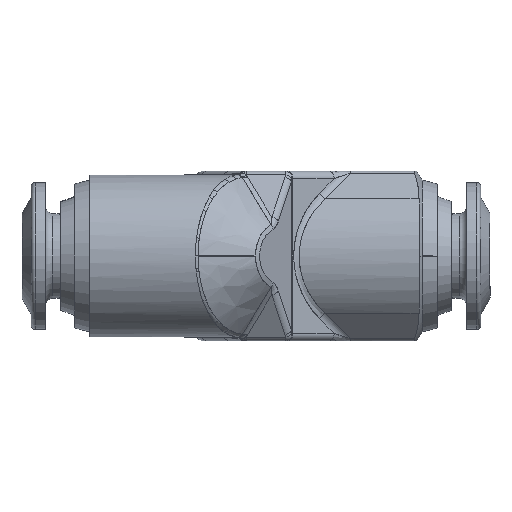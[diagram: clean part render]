
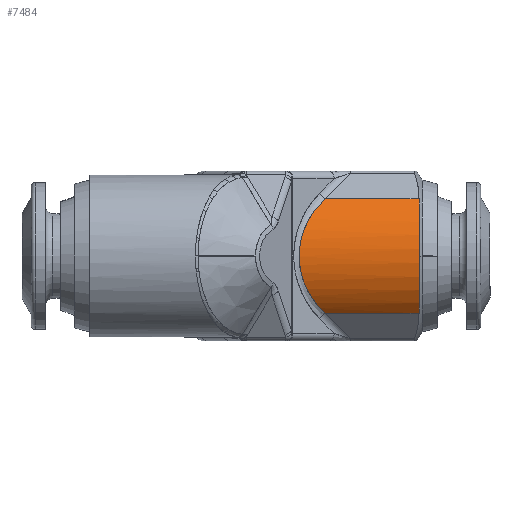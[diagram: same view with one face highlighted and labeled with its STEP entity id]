
A CAD part, left-side view. The second image highlights one B-rep face of the part: STEP entity #7484.
In plain terms, the highlighted cylindrical face has radius 5.25 mm (diameter 10.5 mm), a partial arc.
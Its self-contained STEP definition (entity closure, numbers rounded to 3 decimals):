
#345=CYLINDRICAL_SURFACE('',#8692,5.25);
#716=CIRCLE('',#8693,5.25);
#1168=FACE_OUTER_BOUND('',#1497,.T.);
#1497=EDGE_LOOP('',(#6328,#6329,#6330,#6331));
#1761=B_SPLINE_CURVE_WITH_KNOTS('',3,(#13834,#13835,#13836,#13837,#13838,
#13839,#13840,#13841,#13842,#13843,#13844,#13845,#13846,#13847,#13848,#13849,
#13850,#13851,#13852,#13853,#13854,#13855,#13856,#13857,#13858),
 .UNSPECIFIED.,.F.,.F.,(4,3,3,3,3,3,3,3,4),(0.,0.125,
0.25,0.375,0.5,0.625,
0.75,0.875,1.),.UNSPECIFIED.);
#2140=LINE('',#13829,#2588);
#2141=LINE('',#13833,#2589);
#2588=VECTOR('',#10313,6.08);
#2589=VECTOR('',#10316,6.08);
#3514=VERTEX_POINT('',#13827);
#3515=VERTEX_POINT('',#13828);
#3516=VERTEX_POINT('',#13830);
#3517=VERTEX_POINT('',#13832);
#4921=EDGE_CURVE('',#3514,#3515,#2140,.T.);
#4922=EDGE_CURVE('',#3515,#3516,#716,.T.);
#4923=EDGE_CURVE('',#3516,#3517,#2141,.T.);
#4924=EDGE_CURVE('',#3517,#3514,#1761,.T.);
#6328=ORIENTED_EDGE('',*,*,#4921,.T.);
#6329=ORIENTED_EDGE('',*,*,#4922,.T.);
#6330=ORIENTED_EDGE('',*,*,#4923,.T.);
#6331=ORIENTED_EDGE('',*,*,#4924,.T.);
#7484=ADVANCED_FACE('',(#1168),#345,.T.);
#8692=AXIS2_PLACEMENT_3D('',#13826,#10311,#10312);
#8693=AXIS2_PLACEMENT_3D('',#13831,#10314,#10315);
#10311=DIRECTION('center_axis',(0.,-1.,0.));
#10312=DIRECTION('ref_axis',(0.,0.,-1.));
#10313=DIRECTION('',(0.,-1.,0.));
#10314=DIRECTION('center_axis',(0.,1.,0.));
#10315=DIRECTION('ref_axis',(-0.707,0.,-0.707));
#10316=DIRECTION('',(0.,1.,0.));
#13826=CARTESIAN_POINT('Origin',(-1.037,16.944,0.));
#13827=CARTESIAN_POINT('',(-4.749,19.118,-3.712));
#13828=CARTESIAN_POINT('',(-4.749,13.039,-3.712));
#13829=CARTESIAN_POINT('',(-4.749,19.118,-3.712));
#13830=CARTESIAN_POINT('',(-4.749,13.039,3.712));
#13831=CARTESIAN_POINT('Origin',(-1.037,13.039,0.));
#13832=CARTESIAN_POINT('',(-4.749,19.118,3.712));
#13833=CARTESIAN_POINT('',(-4.749,13.039,3.712));
#13834=CARTESIAN_POINT('Ctrl Pts',(-4.749,19.118,3.712));
#13835=CARTESIAN_POINT('Ctrl Pts',(-4.998,19.392,3.463));
#13836=CARTESIAN_POINT('Ctrl Pts',(-5.216,19.63,3.195));
#13837=CARTESIAN_POINT('Ctrl Pts',(-5.406,19.838,2.91));
#13838=CARTESIAN_POINT('Ctrl Pts',(-5.596,20.046,2.626));
#13839=CARTESIAN_POINT('Ctrl Pts',(-5.758,20.223,2.321));
#13840=CARTESIAN_POINT('Ctrl Pts',(-5.889,20.367,2.005));
#13841=CARTESIAN_POINT('Ctrl Pts',(-6.02,20.51,1.688));
#13842=CARTESIAN_POINT('Ctrl Pts',(-6.12,20.619,1.358));
#13843=CARTESIAN_POINT('Ctrl Pts',(-6.186,20.693,1.022));
#13844=CARTESIAN_POINT('Ctrl Pts',(-6.253,20.766,0.686));
#13845=CARTESIAN_POINT('Ctrl Pts',(-6.287,20.803,0.343));
#13846=CARTESIAN_POINT('Ctrl Pts',(-6.287,20.803,0.));
#13847=CARTESIAN_POINT('Ctrl Pts',(-6.287,20.803,-0.343));
#13848=CARTESIAN_POINT('Ctrl Pts',(-6.253,20.766,-0.686));
#13849=CARTESIAN_POINT('Ctrl Pts',(-6.186,20.693,-1.022));
#13850=CARTESIAN_POINT('Ctrl Pts',(-6.12,20.619,-1.358));
#13851=CARTESIAN_POINT('Ctrl Pts',(-6.02,20.51,-1.688));
#13852=CARTESIAN_POINT('Ctrl Pts',(-5.889,20.367,-2.005));
#13853=CARTESIAN_POINT('Ctrl Pts',(-5.758,20.223,-2.321));
#13854=CARTESIAN_POINT('Ctrl Pts',(-5.596,20.046,-2.626));
#13855=CARTESIAN_POINT('Ctrl Pts',(-5.406,19.838,-2.91));
#13856=CARTESIAN_POINT('Ctrl Pts',(-5.216,19.63,-3.195));
#13857=CARTESIAN_POINT('Ctrl Pts',(-4.998,19.392,-3.463));
#13858=CARTESIAN_POINT('Ctrl Pts',(-4.749,19.118,-3.712));
